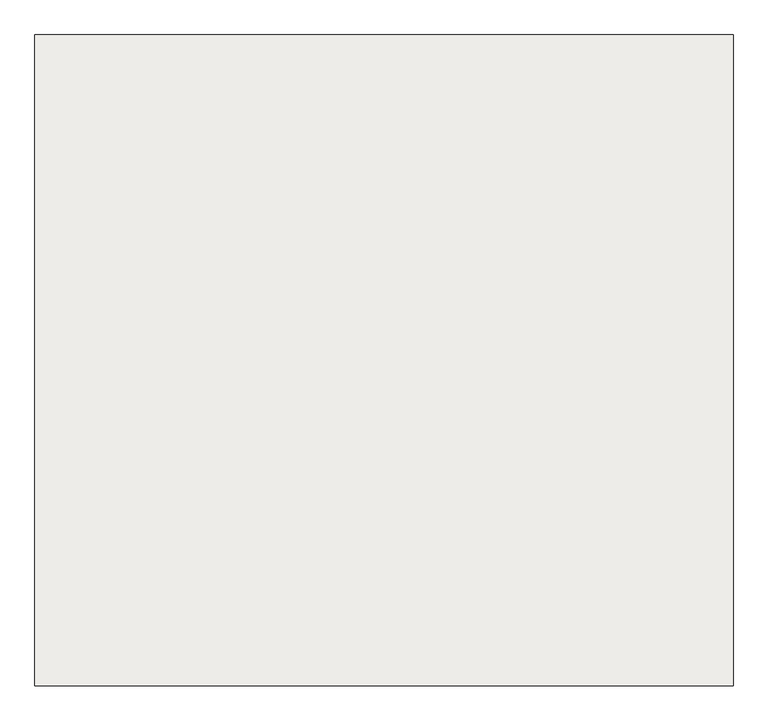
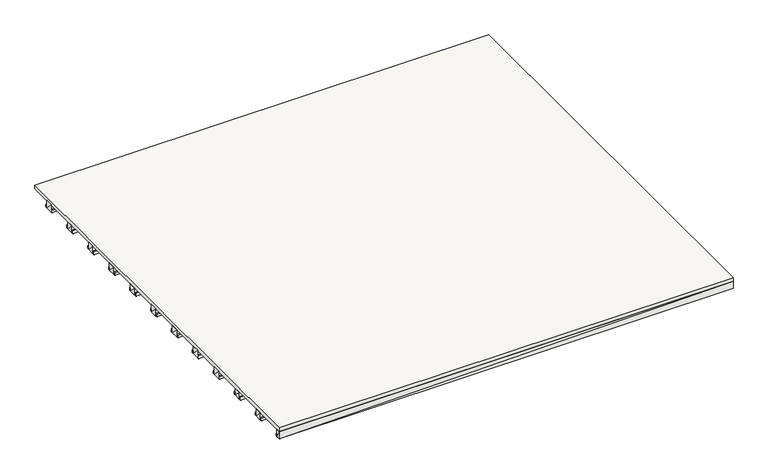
"""IFC4 building model written with IfcOpenShell, lengths in millimetres: slab geometry."""

from ifc_helpers import new_model, si_unit, frame, origin, place, context, project, spatial, polyline, outline, extrude, faceted_brep, source, transform, mapped, element, save


def slab_b28d26c8(model_context):
    return source(origin(), model_context, "Body", "SolidModel", [
        faceted_brep([(-2377.8, 1543.7, -120.0), (2377.8, 1543.7, -120.0), (2377.8, 1528.7, -120.0), (-2377.8, 1528.7, -120.0), (-2377.8, 1528.7, -90.0), (2377.8, 1528.7, -90.0), (2377.8, 1543.7, -90.0), (-2377.8, 1543.7, -90.0)], [[[0, 1, 2, 3]], [[4, 5, 6, 7]], [[4, 3, 5]], [[3, 2, 5]], [[5, 2, 6]], [[2, 1, 6]], [[6, 1, 7]], [[1, 0, 7]], [[7, 0, 4]], [[0, 3, 4]]]),
        faceted_brep([(-2377.8, 2003.7, -120.0), (2377.8, 2003.7, -120.0), (2377.8, 1923.7, -120.0), (-2377.8, 1923.7, -120.0), (-2377.8, 1923.7, -40.0), (2377.8, 1923.7, -40.0), (2377.8, 2003.7, -40.0), (-2377.8, 2003.7, -40.0)], [[[0, 1, 2, 3]], [[4, 5, 6, 7]], [[4, 3, 5]], [[3, 2, 5]], [[5, 2, 6]], [[2, 1, 6]], [[6, 1, 7]], [[1, 0, 7]], [[7, 0, 4]], [[0, 3, 4]]]),
        faceted_brep([(-2377.8, -1036.3, -120.0), (2377.8, -1036.3, -120.0), (2377.8, -1116.3, -120.0), (-2377.8, -1116.3, -120.0), (-2377.8, -1116.3, -40.0), (2377.8, -1116.3, -40.0), (2377.8, -1036.3, -40.0), (-2377.8, -1036.3, -40.0)], [[[0, 1, 2, 3]], [[4, 5, 6, 7]], [[4, 3, 5]], [[3, 2, 5]], [[5, 2, 6]], [[2, 1, 6]], [[6, 1, 7]], [[1, 0, 7]], [[7, 0, 4]], [[0, 3, 4]]]),
        faceted_brep([(-2377.8, -1116.3, -120.0), (2377.8, -1116.3, -120.0), (2377.8, -1131.3, -120.0), (-2377.8, -1131.3, -120.0), (-2377.8, -1131.3, -90.0), (2377.8, -1131.3, -90.0), (2377.8, -1116.3, -90.0), (-2377.8, -1116.3, -90.0)], [[[0, 1, 2, 3]], [[4, 5, 6, 7]], [[4, 3, 5]], [[3, 2, 5]], [[5, 2, 6]], [[2, 1, 6]], [[6, 1, 7]], [[1, 0, 7]], [[7, 0, 4]], [[0, 3, 4]]]),
        faceted_brep([(-2377.8, -276.3, -120.0), (2377.8, -276.3, -120.0), (2377.8, -356.3, -120.0), (-2377.8, -356.3, -120.0), (-2377.8, -356.3, -40.0), (2377.8, -356.3, -40.0), (2377.8, -276.3, -40.0), (-2377.8, -276.3, -40.0)], [[[0, 1, 2, 3]], [[4, 5, 6, 7]], [[4, 3, 5]], [[3, 2, 5]], [[5, 2, 6]], [[2, 1, 6]], [[6, 1, 7]], [[1, 0, 7]], [[7, 0, 4]], [[0, 3, 4]]]),
        faceted_brep([(-2377.8, -356.3, -120.0), (2377.8, -356.3, -120.0), (2377.8, -371.3, -120.0), (-2377.8, -371.3, -120.0), (-2377.8, -371.3, -90.0), (2377.8, -371.3, -90.0), (2377.8, -356.3, -90.0), (-2377.8, -356.3, -90.0)], [[[0, 1, 2, 3]], [[4, 5, 6, 7]], [[4, 3, 5]], [[3, 2, 5]], [[5, 2, 6]], [[2, 1, 6]], [[6, 1, 7]], [[1, 0, 7]], [[7, 0, 4]], [[0, 3, 4]]]),
        faceted_brep([(-2377.8, -641.3, -120.0), (2377.8, -641.3, -120.0), (2377.8, -656.3, -120.0), (-2377.8, -656.3, -120.0), (-2377.8, -656.3, -90.0), (2377.8, -656.3, -90.0), (2377.8, -641.3, -90.0), (-2377.8, -641.3, -90.0)], [[[0, 1, 2, 3]], [[4, 5, 6, 7]], [[4, 3, 5]], [[3, 2, 5]], [[5, 2, 6]], [[2, 1, 6]], [[6, 1, 7]], [[1, 0, 7]], [[7, 0, 4]], [[0, 3, 4]]]),
        faceted_brep([(-2377.8, -261.3, -120.0), (2377.8, -261.3, -120.0), (2377.8, -276.3, -120.0), (-2377.8, -276.3, -120.0), (-2377.8, -276.3, -90.0), (2377.8, -276.3, -90.0), (2377.8, -261.3, -90.0), (-2377.8, -261.3, -90.0)], [[[0, 1, 2, 3]], [[4, 5, 6, 7]], [[4, 3, 5]], [[3, 2, 5]], [[5, 2, 6]], [[2, 1, 6]], [[6, 1, 7]], [[1, 0, 7]], [[7, 0, 4]], [[0, 3, 4]]]),
        faceted_brep([(-2377.8, -1796.3, -120.0), (2377.8, -1796.3, -120.0), (2377.8, -1876.3, -120.0), (-2377.8, -1876.3, -120.0), (-2377.8, -1876.3, -40.0), (2377.8, -1876.3, -40.0), (2377.8, -1796.3, -40.0), (-2377.8, -1796.3, -40.0)], [[[0, 1, 2, 3]], [[4, 5, 6, 7]], [[4, 3, 5]], [[3, 2, 5]], [[5, 2, 6]], [[2, 1, 6]], [[6, 1, 7]], [[1, 0, 7]], [[7, 0, 4]], [[0, 3, 4]]]),
        faceted_brep([(-2377.8, 118.7, -120.0), (2377.8, 118.7, -120.0), (2377.8, 103.7, -120.0), (-2377.8, 103.7, -120.0), (-2377.8, 103.7, -90.0), (2377.8, 103.7, -90.0), (2377.8, 118.7, -90.0), (-2377.8, 118.7, -90.0)], [[[0, 1, 2, 3]], [[4, 5, 6, 7]], [[4, 3, 5]], [[3, 2, 5]], [[5, 2, 6]], [[2, 1, 6]], [[6, 1, 7]], [[1, 0, 7]], [[7, 0, 4]], [[0, 3, 4]]]),
        faceted_brep([(-2377.8, 23.7, -120.0), (2377.8, 23.7, -120.0), (2377.8, 8.7, -120.0), (-2377.8, 8.7, -120.0), (-2377.8, 8.7, -90.0), (2377.8, 8.7, -90.0), (2377.8, 23.7, -90.0), (-2377.8, 23.7, -90.0)], [[[0, 1, 2, 3]], [[4, 5, 6, 7]], [[4, 3, 5]], [[3, 2, 5]], [[5, 2, 6]], [[2, 1, 6]], [[6, 1, 7]], [[1, 0, 7]], [[7, 0, 4]], [[0, 3, 4]]]),
        faceted_brep([(-2377.8, 783.7, -120.0), (2377.8, 783.7, -120.0), (2377.8, 768.7, -120.0), (-2377.8, 768.7, -120.0), (-2377.8, 768.7, -90.0), (2377.8, 768.7, -90.0), (2377.8, 783.7, -90.0), (-2377.8, 783.7, -90.0)], [[[0, 1, 2, 3]], [[4, 5, 6, 7]], [[4, 3, 5]], [[3, 2, 5]], [[5, 2, 6]], [[2, 1, 6]], [[6, 1, 7]], [[1, 0, 7]], [[7, 0, 4]], [[0, 3, 4]]]),
        faceted_brep([(-2377.8, 863.7, -120.0), (2377.8, 863.7, -120.0), (2377.8, 783.7, -120.0), (-2377.8, 783.7, -120.0), (-2377.8, 783.7, -40.0), (2377.8, 783.7, -40.0), (2377.8, 863.7, -40.0), (-2377.8, 863.7, -40.0)], [[[0, 1, 2, 3]], [[4, 5, 6, 7]], [[4, 3, 5]], [[3, 2, 5]], [[5, 2, 6]], [[2, 1, 6]], [[6, 1, 7]], [[1, 0, 7]], [[7, 0, 4]], [[0, 3, 4]]]),
        faceted_brep([(-2377.8, -656.3, -120.0), (2377.8, -656.3, -120.0), (2377.8, -736.3, -120.0), (-2377.8, -736.3, -120.0), (-2377.8, -736.3, -40.0), (2377.8, -736.3, -40.0), (2377.8, -656.3, -40.0), (-2377.8, -656.3, -40.0)], [[[0, 1, 2, 3]], [[4, 5, 6, 7]], [[4, 3, 5]], [[3, 2, 5]], [[5, 2, 6]], [[2, 1, 6]], [[6, 1, 7]], [[1, 0, 7]], [[7, 0, 4]], [[0, 3, 4]]]),
        faceted_brep([(-2377.8, -2161.3, -120.0), (2377.8, -2161.3, -120.0), (2377.8, -2176.3, -120.0), (-2377.8, -2176.3, -120.0), (-2377.8, -2176.3, -90.0), (2377.8, -2176.3, -90.0), (2377.8, -2161.3, -90.0), (-2377.8, -2161.3, -90.0)], [[[0, 1, 2, 3]], [[4, 5, 6, 7]], [[4, 3, 5]], [[3, 2, 5]], [[5, 2, 6]], [[2, 1, 6]], [[6, 1, 7]], [[1, 0, 7]], [[7, 0, 4]], [[0, 3, 4]]]),
        faceted_brep([(-2377.8, 878.7, -120.0), (2377.8, 878.7, -120.0), (2377.8, 863.7, -120.0), (-2377.8, 863.7, -120.0), (-2377.8, 863.7, -90.0), (2377.8, 863.7, -90.0), (2377.8, 878.7, -90.0), (-2377.8, 878.7, -90.0)], [[[0, 1, 2, 3]], [[4, 5, 6, 7]], [[4, 3, 5]], [[3, 2, 5]], [[5, 2, 6]], [[2, 1, 6]], [[6, 1, 7]], [[1, 0, 7]], [[7, 0, 4]], [[0, 3, 4]]]),
        faceted_brep([(-2377.8, -1401.3, -120.0), (2377.8, -1401.3, -120.0), (2377.8, -1416.3, -120.0), (-2377.8, -1416.3, -120.0), (-2377.8, -1416.3, -90.0), (2377.8, -1416.3, -90.0), (2377.8, -1401.3, -90.0), (-2377.8, -1401.3, -90.0)], [[[0, 1, 2, 3]], [[4, 5, 6, 7]], [[4, 3, 5]], [[3, 2, 5]], [[5, 2, 6]], [[2, 1, 6]], [[6, 1, 7]], [[1, 0, 7]], [[7, 0, 4]], [[0, 3, 4]]]),
        faceted_brep([(-2377.8, 103.7, -120.0), (2377.8, 103.7, -120.0), (2377.8, 23.7, -120.0), (-2377.8, 23.7, -120.0), (-2377.8, 23.7, -40.0), (2377.8, 23.7, -40.0), (2377.8, 103.7, -40.0), (-2377.8, 103.7, -40.0)], [[[0, 1, 2, 3]], [[4, 5, 6, 7]], [[4, 3, 5]], [[3, 2, 5]], [[5, 2, 6]], [[2, 1, 6]], [[6, 1, 7]], [[1, 0, 7]], [[7, 0, 4]], [[0, 3, 4]]]),
        faceted_brep([(-2377.8, 483.7, -120.0), (2377.8, 483.7, -120.0), (2377.8, 403.7, -120.0), (-2377.8, 403.7, -120.0), (-2377.8, 403.7, -40.0), (2377.8, 403.7, -40.0), (2377.8, 483.7, -40.0), (-2377.8, 483.7, -40.0)], [[[0, 1, 2, 3]], [[4, 5, 6, 7]], [[4, 3, 5]], [[3, 2, 5]], [[5, 2, 6]], [[2, 1, 6]], [[6, 1, 7]], [[1, 0, 7]], [[7, 0, 4]], [[0, 3, 4]]]),
        faceted_brep([(-2377.8, 1243.7, -120.0), (2377.8, 1243.7, -120.0), (2377.8, 1163.7, -120.0), (-2377.8, 1163.7, -120.0), (-2377.8, 1163.7, -40.0), (2377.8, 1163.7, -40.0), (2377.8, 1243.7, -40.0), (-2377.8, 1243.7, -40.0)], [[[0, 1, 2, 3]], [[4, 5, 6, 7]], [[4, 3, 5]], [[3, 2, 5]], [[5, 2, 6]], [[2, 1, 6]], [[6, 1, 7]], [[1, 0, 7]], [[7, 0, 4]], [[0, 3, 4]]]),
        extrude(outline(polyline([(-2377.8, 2216.3), (2377.8, 2216.3), (2377.8, -2216.3), (-2377.8, -2216.3), (-2377.8, 2216.3)])), frame((0.0, 0.0, -40.0), z_axis=(0.0, 0.0, 1.0), x_axis=(1.0, 0.0, 0.0)), (0.0, 0.0, 1.0), 40.0),
        faceted_brep([(-2377.8, -2176.3, -120.0), (2377.8, -2176.3, -120.0), (2377.8, -2216.3, -120.0), (-2377.8, -2216.3, -120.0), (-2377.8, -2216.3, -40.0), (2377.8, -2216.3, -40.0), (2377.8, -2176.3, -40.0), (-2377.8, -2176.3, -40.0)], [[[0, 1, 2, 3]], [[4, 5, 6, 7]], [[4, 3, 5]], [[3, 2, 5]], [[5, 2, 6]], [[2, 1, 6]], [[6, 1, 7]], [[1, 0, 7]], [[7, 0, 4]], [[0, 3, 4]]]),
        faceted_brep([(-2377.8, -736.3, -120.0), (2377.8, -736.3, -120.0), (2377.8, -751.3, -120.0), (-2377.8, -751.3, -120.0), (-2377.8, -751.3, -90.0), (2377.8, -751.3, -90.0), (2377.8, -736.3, -90.0), (-2377.8, -736.3, -90.0)], [[[0, 1, 2, 3]], [[4, 5, 6, 7]], [[4, 3, 5]], [[3, 2, 5]], [[5, 2, 6]], [[2, 1, 6]], [[6, 1, 7]], [[1, 0, 7]], [[7, 0, 4]], [[0, 3, 4]]]),
        faceted_brep([(-2377.8, -1021.3, -120.0), (2377.8, -1021.3, -120.0), (2377.8, -1036.3, -120.0), (-2377.8, -1036.3, -120.0), (-2377.8, -1036.3, -90.0), (2377.8, -1036.3, -90.0), (2377.8, -1021.3, -90.0), (-2377.8, -1021.3, -90.0)], [[[0, 1, 2, 3]], [[4, 5, 6, 7]], [[4, 3, 5]], [[3, 2, 5]], [[5, 2, 6]], [[2, 1, 6]], [[6, 1, 7]], [[1, 0, 7]], [[7, 0, 4]], [[0, 3, 4]]]),
        faceted_brep([(-2377.8, -1496.3, -120.0), (2377.8, -1496.3, -120.0), (2377.8, -1511.3, -120.0), (-2377.8, -1511.3, -120.0), (-2377.8, -1511.3, -90.0), (2377.8, -1511.3, -90.0), (2377.8, -1496.3, -90.0), (-2377.8, -1496.3, -90.0)], [[[0, 1, 2, 3]], [[4, 5, 6, 7]], [[4, 3, 5]], [[3, 2, 5]], [[5, 2, 6]], [[2, 1, 6]], [[6, 1, 7]], [[1, 0, 7]], [[7, 0, 4]], [[0, 3, 4]]]),
        faceted_brep([(-2377.8, 2018.7, -120.0), (2377.8, 2018.7, -120.0), (2377.8, 2003.7, -120.0), (-2377.8, 2003.7, -120.0), (-2377.8, 2003.7, -90.0), (2377.8, 2003.7, -90.0), (2377.8, 2018.7, -90.0), (-2377.8, 2018.7, -90.0)], [[[0, 1, 2, 3]], [[4, 5, 6, 7]], [[4, 3, 5]], [[3, 2, 5]], [[5, 2, 6]], [[2, 1, 6]], [[6, 1, 7]], [[1, 0, 7]], [[7, 0, 4]], [[0, 3, 4]]]),
        faceted_brep([(-2377.8, 1623.7, -120.0), (2377.8, 1623.7, -120.0), (2377.8, 1543.7, -120.0), (-2377.8, 1543.7, -120.0), (-2377.8, 1543.7, -40.0), (2377.8, 1543.7, -40.0), (2377.8, 1623.7, -40.0), (-2377.8, 1623.7, -40.0)], [[[0, 1, 2, 3]], [[4, 5, 6, 7]], [[4, 3, 5]], [[3, 2, 5]], [[5, 2, 6]], [[2, 1, 6]], [[6, 1, 7]], [[1, 0, 7]], [[7, 0, 4]], [[0, 3, 4]]]),
        faceted_brep([(-2377.8, 498.7, -120.0), (2377.8, 498.7, -120.0), (2377.8, 483.7, -120.0), (-2377.8, 483.7, -120.0), (-2377.8, 483.7, -90.0), (2377.8, 483.7, -90.0), (2377.8, 498.7, -90.0), (-2377.8, 498.7, -90.0)], [[[0, 1, 2, 3]], [[4, 5, 6, 7]], [[4, 3, 5]], [[3, 2, 5]], [[5, 2, 6]], [[2, 1, 6]], [[6, 1, 7]], [[1, 0, 7]], [[7, 0, 4]], [[0, 3, 4]]]),
        faceted_brep([(-2377.8, -1416.3, -120.0), (2377.8, -1416.3, -120.0), (2377.8, -1496.3, -120.0), (-2377.8, -1496.3, -120.0), (-2377.8, -1496.3, -40.0), (2377.8, -1496.3, -40.0), (2377.8, -1416.3, -40.0), (-2377.8, -1416.3, -40.0)], [[[0, 1, 2, 3]], [[4, 5, 6, 7]], [[4, 3, 5]], [[3, 2, 5]], [[5, 2, 6]], [[2, 1, 6]], [[6, 1, 7]], [[1, 0, 7]], [[7, 0, 4]], [[0, 3, 4]]]),
        faceted_brep([(-2377.8, 1638.7, -120.0), (2377.8, 1638.7, -120.0), (2377.8, 1623.7, -120.0), (-2377.8, 1623.7, -120.0), (-2377.8, 1623.7, -90.0), (2377.8, 1623.7, -90.0), (2377.8, 1638.7, -90.0), (-2377.8, 1638.7, -90.0)], [[[0, 1, 2, 3]], [[4, 5, 6, 7]], [[4, 3, 5]], [[3, 2, 5]], [[5, 2, 6]], [[2, 1, 6]], [[6, 1, 7]], [[1, 0, 7]], [[7, 0, 4]], [[0, 3, 4]]]),
        faceted_brep([(-2377.8, 1163.7, -120.0), (2377.8, 1163.7, -120.0), (2377.8, 1148.7, -120.0), (-2377.8, 1148.7, -120.0), (-2377.8, 1148.7, -90.0), (2377.8, 1148.7, -90.0), (2377.8, 1163.7, -90.0), (-2377.8, 1163.7, -90.0)], [[[0, 1, 2, 3]], [[4, 5, 6, 7]], [[4, 3, 5]], [[3, 2, 5]], [[5, 2, 6]], [[2, 1, 6]], [[6, 1, 7]], [[1, 0, 7]], [[7, 0, 4]], [[0, 3, 4]]]),
        faceted_brep([(-2377.8, -1876.3, -120.0), (2377.8, -1876.3, -120.0), (2377.8, -1891.3, -120.0), (-2377.8, -1891.3, -120.0), (-2377.8, -1891.3, -90.0), (2377.8, -1891.3, -90.0), (2377.8, -1876.3, -90.0), (-2377.8, -1876.3, -90.0)], [[[0, 1, 2, 3]], [[4, 5, 6, 7]], [[4, 3, 5]], [[3, 2, 5]], [[5, 2, 6]], [[2, 1, 6]], [[6, 1, 7]], [[1, 0, 7]], [[7, 0, 4]], [[0, 3, 4]]]),
        faceted_brep([(-2377.8, 1923.7, -120.0), (2377.8, 1923.7, -120.0), (2377.8, 1908.7, -120.0), (-2377.8, 1908.7, -120.0), (-2377.8, 1908.7, -90.0), (2377.8, 1908.7, -90.0), (2377.8, 1923.7, -90.0), (-2377.8, 1923.7, -90.0)], [[[0, 1, 2, 3]], [[4, 5, 6, 7]], [[4, 3, 5]], [[3, 2, 5]], [[5, 2, 6]], [[2, 1, 6]], [[6, 1, 7]], [[1, 0, 7]], [[7, 0, 4]], [[0, 3, 4]]]),
        faceted_brep([(-2377.8, 1258.7, -120.0), (2377.8, 1258.7, -120.0), (2377.8, 1243.7, -120.0), (-2377.8, 1243.7, -120.0), (-2377.8, 1243.7, -90.0), (2377.8, 1243.7, -90.0), (2377.8, 1258.7, -90.0), (-2377.8, 1258.7, -90.0)], [[[0, 1, 2, 3]], [[4, 5, 6, 7]], [[4, 3, 5]], [[3, 2, 5]], [[5, 2, 6]], [[2, 1, 6]], [[6, 1, 7]], [[1, 0, 7]], [[7, 0, 4]], [[0, 3, 4]]]),
        faceted_brep([(-2377.8, 403.7, -120.0), (2377.8, 403.7, -120.0), (2377.8, 388.7, -120.0), (-2377.8, 388.7, -120.0), (-2377.8, 388.7, -90.0), (2377.8, 388.7, -90.0), (2377.8, 403.7, -90.0), (-2377.8, 403.7, -90.0)], [[[0, 1, 2, 3]], [[4, 5, 6, 7]], [[4, 3, 5]], [[3, 2, 5]], [[5, 2, 6]], [[2, 1, 6]], [[6, 1, 7]], [[1, 0, 7]], [[7, 0, 4]], [[0, 3, 4]]]),
        faceted_brep([(-2377.8, -1781.3, -120.0), (2377.8, -1781.3, -120.0), (2377.8, -1796.3, -120.0), (-2377.8, -1796.3, -120.0), (-2377.8, -1796.3, -90.0), (2377.8, -1796.3, -90.0), (2377.8, -1781.3, -90.0), (-2377.8, -1781.3, -90.0)], [[[0, 1, 2, 3]], [[4, 5, 6, 7]], [[4, 3, 5]], [[3, 2, 5]], [[5, 2, 6]], [[2, 1, 6]], [[6, 1, 7]], [[1, 0, 7]], [[7, 0, 4]], [[0, 3, 4]]]),
    ])


if __name__ == "__main__":
    model = new_model("IFC4")
    model_context = context("Model", 3, world=origin())
    ifc_project = project(units=[si_unit("LENGTHUNIT", "METRE", prefix="MILLI")], contexts=[model_context])
    site = spatial("IfcSite", under=ifc_project)
    building = spatial("IfcBuilding", under=site)
    placement = place(None, origin())
    slab_shape = slab_b28d26c8(model_context)
    element("IfcSlab", 1, at=placement, inside=building, context=model_context, shape_type="MappedRepresentation", body=[
        mapped(slab_shape, transform((0.0, 0.0, 0.0), x_axis=(1.0, 0.0, 0.0), y_axis=(0.0, 1.0, 0.0), z_axis=(0.0, 0.0, 1.0))),
    ])
    save(model, "model.ifc")
